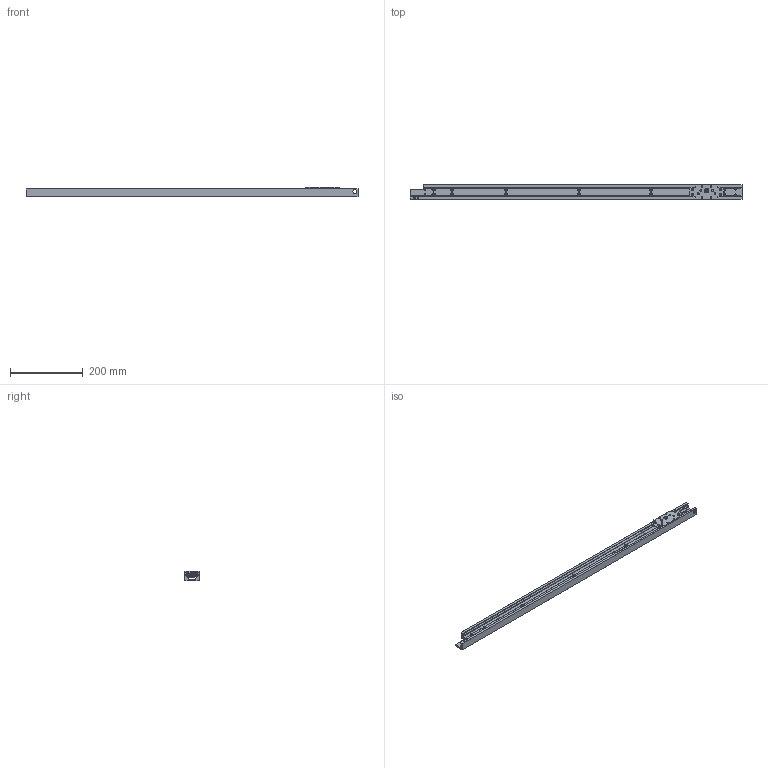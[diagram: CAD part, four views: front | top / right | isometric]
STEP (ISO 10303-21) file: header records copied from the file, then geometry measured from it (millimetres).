
FILE_DESCRIPTION((''),'1');
FILE_NAME('H:/図庫/国内ﾕﾆｯﾄ/ﾌﾙﾗｲﾄﾞ/ホームページ用ＣＡＤ図面/最新/3D/40SW0915S_HP.stp','2016-11-30T07:52:11',(''),(''),'Spatial Interop R21 SP3','Kubotek KeyCreator 2011 V10.0.2 (22737)',' ');
FILE_SCHEMA(('automotive_design'));
Length unit declared in the file: millimetre
Products named in the file (169): Unnamed[1]
Bounding box: 915 x 40 x 25.03 mm (x, y, z)
Surface area: 192179.2 mm2 (no closed solid volume)
Topology: 0 solids, 338 shells, 338 faces, 1559 edges, 1442 vertices
Faces by surface type: cylinder 156, plane 120, cone 37, bspline 19, torus 6
Full cylindrical faces by diameter (mm): 3 x3, 3.1 x4, 3.3 x2, 3.5 x4, 4 x4, 4.2 x12, 5 x5, 6 x4, 6.03 x2, 7 x3, 7.8 x3, 9 x12, 10 x3, 11 x4, 13 x1, 17 x4, 19.9 x2
Entity records: 26673 total; most frequent: CARTESIAN_POINT 6444, DIRECTION 2682, ORIENTED_EDGE 1422, EDGE_CURVE 1422, VERTEX_POINT 1422, AXIS2_PLACEMENT_3D 1144, PRESENTATION_STYLE_ASSIGNMENT 1014, COLOUR_RGB 1014
